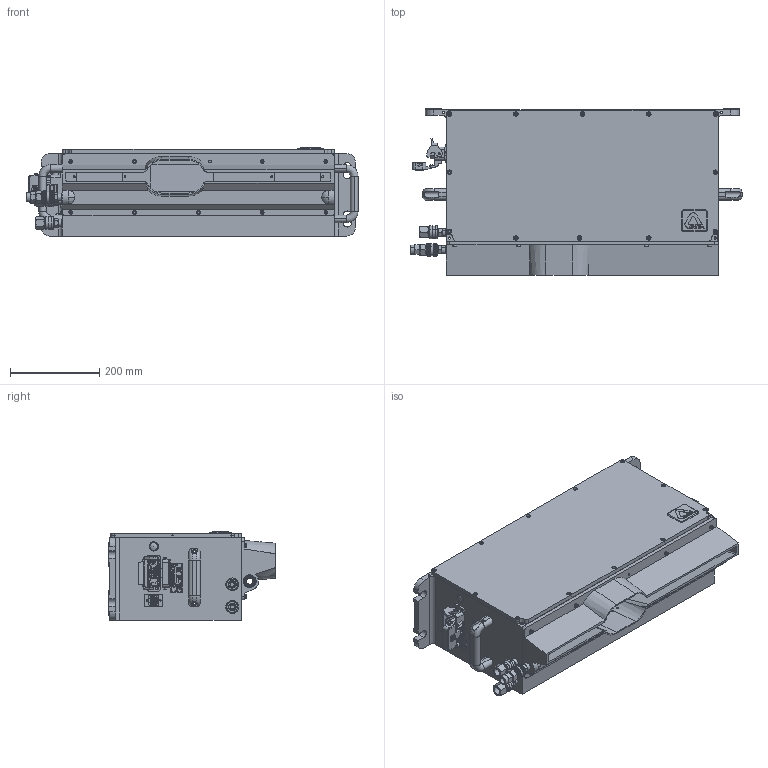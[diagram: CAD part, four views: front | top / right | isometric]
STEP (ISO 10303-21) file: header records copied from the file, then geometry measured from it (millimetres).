
FILE_DESCRIPTION (( 'STEP AP214' ), '1' );
FILE_NAME ('XD4100_STEP.STEP', '2020-11-24T15:22:54', ( '' ), ( '' ), 'SwSTEP 2.0', 'SolidWorks 2014', '' );
FILE_SCHEMA (( 'AUTOMOTIVE_DESIGN' ));
Length unit declared in the file: millimetre
Products named in the file (1): XD4100_STEP
Bounding box: 744.5 x 373.5 x 197.53 mm (x, y, z)
Surface area: 1298599.5 mm2 (no closed solid volume)
Topology: 0 solids, 101 shells, 1040 faces, 4936 edges, 3939 vertices
Faces by surface type: plane 481, cylinder 395, cone 61, torus 56, bspline 24, sphere 23
Entity records: 66201 total; most frequent: CARTESIAN_POINT 17174, DIRECTION 7107, ORIENTED_EDGE 7004, EDGE_CURVE 4905, VERTEX_POINT 3937, VECTOR 2621, LINE 2621, AXIS2_PLACEMENT_3D 2243
